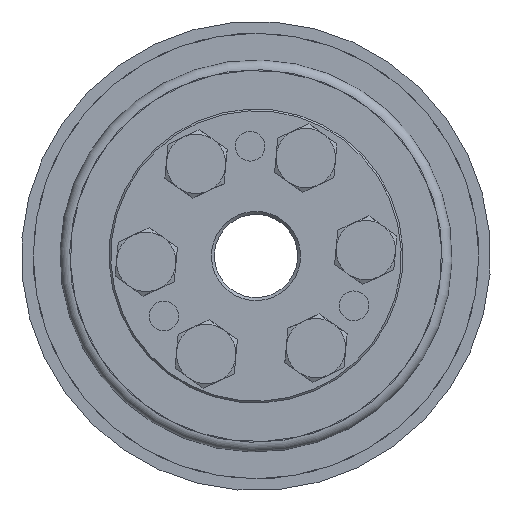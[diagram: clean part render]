
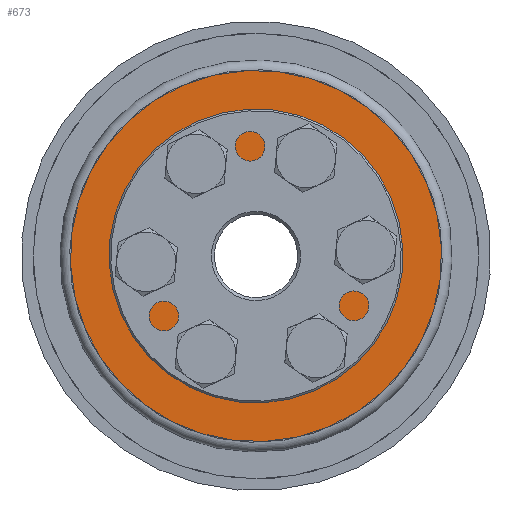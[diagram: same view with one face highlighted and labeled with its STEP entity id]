
A CAD part, left-side view. The second image highlights one B-rep face of the part: STEP entity #673.
In plain terms, the highlighted planar face has unit normal (-1, 0, 0) as drawn and (1, 0, 0) by its records, which use the part's own axes.
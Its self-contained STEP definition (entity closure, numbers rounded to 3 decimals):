
#673 = ADVANCED_FACE( 'NONE', ( #1341, #1342, #1343, #1344, #1345, #1346, #1347, #1348 ), #1349, .F. );
#1341 = FACE_OUTER_BOUND( '', #2270, .T. );
#1342 = FACE_BOUND( '', #2271, .T. );
#1343 = FACE_BOUND( '', #2272, .T. );
#1344 = FACE_BOUND( '', #2273, .T. );
#1345 = FACE_BOUND( '', #2274, .T. );
#1346 = FACE_BOUND( '', #2275, .T. );
#1347 = FACE_BOUND( '', #2276, .T. );
#1348 = FACE_BOUND( '', #2277, .T. );
#1349 = PLANE( '', #2278 );
#2270 = EDGE_LOOP( '', ( #3143 ) );
#2271 = EDGE_LOOP( '', ( #3144 ) );
#2272 = EDGE_LOOP( '', ( #3145 ) );
#2273 = EDGE_LOOP( '', ( #3146 ) );
#2274 = EDGE_LOOP( '', ( #3147 ) );
#2275 = EDGE_LOOP( '', ( #3148 ) );
#2276 = EDGE_LOOP( '', ( #3149 ) );
#2277 = EDGE_LOOP( '', ( #3150 ) );
#2278 = AXIS2_PLACEMENT_3D( '', #3151, #3152, #3153 );
#3143 = ORIENTED_EDGE( '', *, *, #4522, .F. );
#3144 = ORIENTED_EDGE( '', *, *, #4523, .F. );
#3145 = ORIENTED_EDGE( '', *, *, #4524, .T. );
#3146 = ORIENTED_EDGE( '', *, *, #4525, .F. );
#3147 = ORIENTED_EDGE( '', *, *, #4526, .F. );
#3148 = ORIENTED_EDGE( '', *, *, #4527, .F. );
#3149 = ORIENTED_EDGE( '', *, *, #4528, .F. );
#3150 = ORIENTED_EDGE( '', *, *, #4529, .F. );
#3151 = CARTESIAN_POINT( '', ( 16., 31.25, 0. ) );
#3152 = DIRECTION( '', ( -1., 0., 0. ) );
#3153 = DIRECTION( '', ( 0., 0., 1. ) );
#4522 = EDGE_CURVE( 'NONE', #5082, #5082, #5083, .T. );
#4523 = EDGE_CURVE( 'NONE', #5084, #5084, #5085, .T. );
#4524 = EDGE_CURVE( 'NONE', #5086, #5086, #5087, .T. );
#4525 = EDGE_CURVE( 'NONE', #5088, #5088, #5089, .T. );
#4526 = EDGE_CURVE( 'NONE', #5090, #5090, #5091, .T. );
#4527 = EDGE_CURVE( 'NONE', #5092, #5092, #5093, .T. );
#4528 = EDGE_CURVE( 'NONE', #5094, #5094, #5095, .T. );
#4529 = EDGE_CURVE( 'NONE', #5096, #5096, #5097, .T. );
#5082 = VERTEX_POINT( '', #5857 );
#5083 = CIRCLE( '', #5858, 31.25 );
#5084 = VERTEX_POINT( '', #5859 );
#5085 = CIRCLE( '', #5860, 3. );
#5086 = VERTEX_POINT( '', #5861 );
#5087 = CIRCLE( '', #5862, 15.1 );
#5088 = VERTEX_POINT( '', #5863 );
#5089 = CIRCLE( '', #5864, 3. );
#5090 = VERTEX_POINT( '', #5865 );
#5091 = CIRCLE( '', #5866, 3. );
#5092 = VERTEX_POINT( '', #5867 );
#5093 = CIRCLE( '', #5868, 3. );
#5094 = VERTEX_POINT( '', #5869 );
#5095 = CIRCLE( '', #5870, 3. );
#5096 = VERTEX_POINT( '', #5871 );
#5097 = CIRCLE( '', #5872, 3. );
#5857 = CARTESIAN_POINT( '', ( 16., 0., 31.25 ) );
#5858 = AXIS2_PLACEMENT_3D( '', #7096, #7097, #7098 );
#5859 = CARTESIAN_POINT( '', ( 16., -9.25, 13.021 ) );
#5860 = AXIS2_PLACEMENT_3D( '', #7099, #7100, #7101 );
#5861 = CARTESIAN_POINT( '', ( 16., 0., 15.1 ) );
#5862 = AXIS2_PLACEMENT_3D( '', #7102, #7103, #7104 );
#5863 = CARTESIAN_POINT( '', ( 16., 18.5, -3. ) );
#5864 = AXIS2_PLACEMENT_3D( '', #7105, #7106, #7107 );
#5865 = CARTESIAN_POINT( '', ( 16., 9.25, -19.021 ) );
#5866 = AXIS2_PLACEMENT_3D( '', #7108, #7109, #7110 );
#5867 = CARTESIAN_POINT( '', ( 16., -9.25, -19.021 ) );
#5868 = AXIS2_PLACEMENT_3D( '', #7111, #7112, #7113 );
#5869 = CARTESIAN_POINT( '', ( 16., -18.5, -3. ) );
#5870 = AXIS2_PLACEMENT_3D( '', #7114, #7115, #7116 );
#5871 = CARTESIAN_POINT( '', ( 16., 9.25, 13.021 ) );
#5872 = AXIS2_PLACEMENT_3D( '', #7117, #7118, #7119 );
#7096 = CARTESIAN_POINT( '', ( 16., 0., 0. ) );
#7097 = DIRECTION( '', ( -1., 0., 0. ) );
#7098 = DIRECTION( '', ( 0., 0., 1. ) );
#7099 = CARTESIAN_POINT( '', ( 16., -9.25, 16.021 ) );
#7100 = DIRECTION( '', ( 1., 0., 0. ) );
#7101 = DIRECTION( '', ( 0., 0., -1. ) );
#7102 = CARTESIAN_POINT( '', ( 16., 0., 0. ) );
#7103 = DIRECTION( '', ( -1., 0., 0. ) );
#7104 = DIRECTION( '', ( 0., 0., 1. ) );
#7105 = CARTESIAN_POINT( '', ( 16., 18.5, 0. ) );
#7106 = DIRECTION( '', ( 1., 0., 0. ) );
#7107 = DIRECTION( '', ( 0., 0., -1. ) );
#7108 = CARTESIAN_POINT( '', ( 16., 9.25, -16.021 ) );
#7109 = DIRECTION( '', ( 1., 0., 0. ) );
#7110 = DIRECTION( '', ( 0., 0., -1. ) );
#7111 = CARTESIAN_POINT( '', ( 16., -9.25, -16.021 ) );
#7112 = DIRECTION( '', ( 1., 0., 0. ) );
#7113 = DIRECTION( '', ( 0., 0., -1. ) );
#7114 = CARTESIAN_POINT( '', ( 16., -18.5, 0. ) );
#7115 = DIRECTION( '', ( 1., 0., 0. ) );
#7116 = DIRECTION( '', ( 0., 0., -1. ) );
#7117 = CARTESIAN_POINT( '', ( 16., 9.25, 16.021 ) );
#7118 = DIRECTION( '', ( 1., 0., 0. ) );
#7119 = DIRECTION( '', ( 0., 0., -1. ) );
